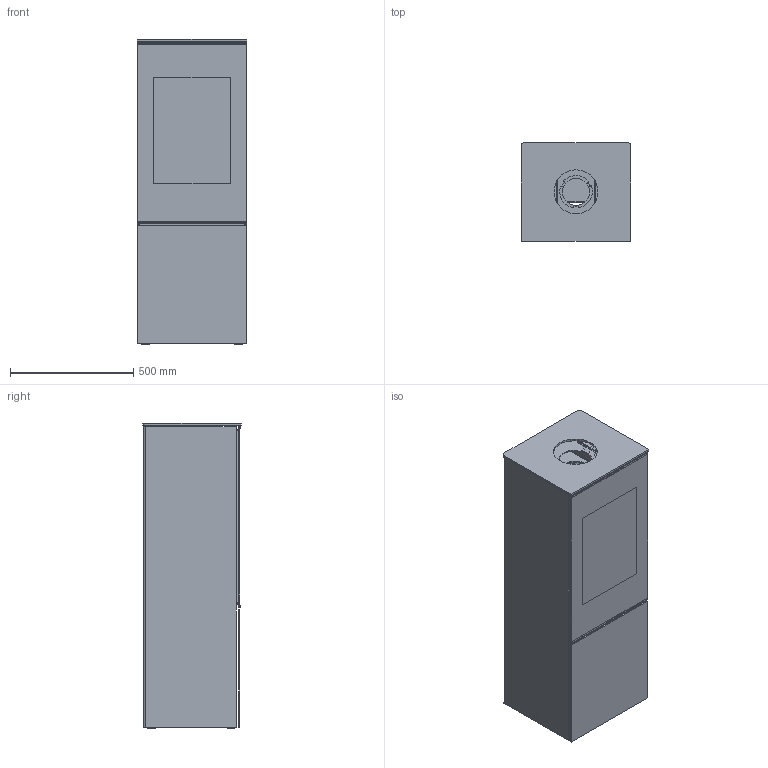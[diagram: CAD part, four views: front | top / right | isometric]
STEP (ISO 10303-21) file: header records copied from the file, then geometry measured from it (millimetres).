
FILE_DESCRIPTION(/* description */ (''),/* implementation_level */ '2;1');
FILE_NAME(/* name */ '10 NEXO 120_10-0203.stp',/* time_stamp */ '2023-11-16T10:17:25+01:00',/* author */ ('ksj'),/* organization */ (''),/* preprocessor_version */ 'ST-DEVELOPER v19.2',/* originating_system */ 'Autodesk Inventor 2023',/* authorisation */ '');
FILE_SCHEMA (('AUTOMOTIVE_DESIGN { 1 0 10303 214 3 1 1 }'));
Products named in the file (1): 10 NEXO 120_10-0203
Bounding box: 446 x 398 x 1240 mm (x, y, z)
Volume: 19788538.7 mm3; surface area: 8482693.7 mm2
Topology: 35 solids, 35 shells, 2601 faces, 6841 edges, 4317 vertices
Faces by surface type: plane 1423, cylinder 944, bspline 156, sphere 62, cone 12, torus 4
Full cylindrical faces by diameter (mm): 8 x4, 20 x4, 32 x4, 110 x2, 134 x1, 178 x1
Entity records: 87947 total; most frequent: CARTESIAN_POINT 19875, ORIENTED_EDGE 13674, DIRECTION 13633, EDGE_CURVE 6837, LINE 4611, VECTOR 4611, AXIS2_PLACEMENT_3D 4511, VERTEX_POINT 4313
